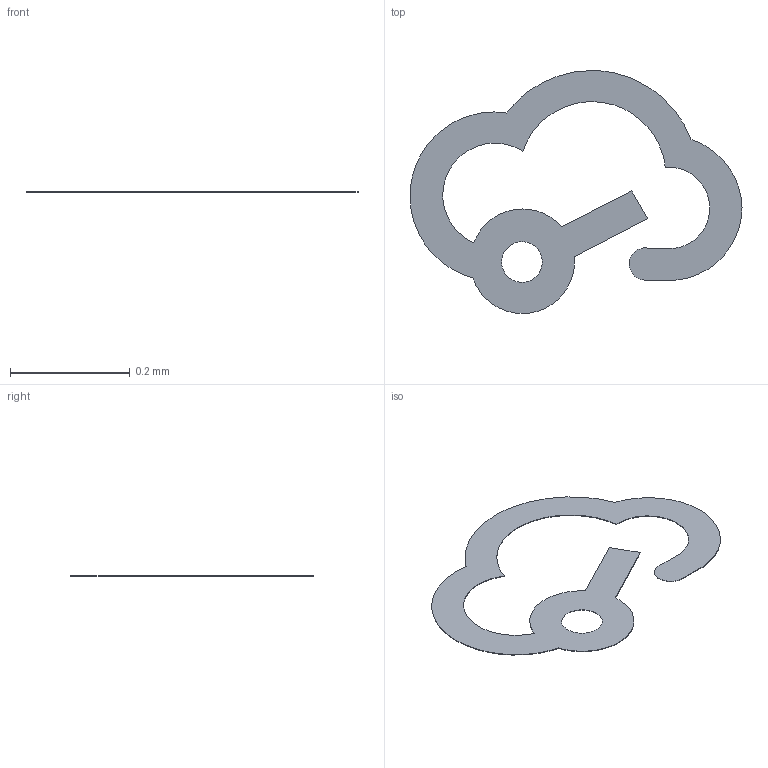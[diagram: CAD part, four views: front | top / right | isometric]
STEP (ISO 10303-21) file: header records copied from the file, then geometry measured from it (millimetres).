
FILE_DESCRIPTION(/* description */ ('STEP AP242 Edition 2','CAx-IF Rec.Pracs.---Representation and Presentation of Product Manufacturing Information (PMI)---4.0---2014-10-13','CAx-IF Rec.Pracs.---3D Tessellated Geometry---0.4---2014-09-14','2;1','CAx-IF Rec.Pracs.---User Defined Attributes---1.5---2016-08-15'),/* implementation_level */ '2;1');
FILE_NAME(/* name */ 'Assembly 1 - SW-SMD_L3.9-W3.0-P4.45~SW-SMD_L3.9-W2.9-H2.0-LS4.8~nxQB (6)',/* time_stamp */ '2026-04-02T09:55:26Z',/* author */ (''),/* organization */ (''),/* preprocessor_version */ 'ST-DEVELOPER v20',/* originating_system */ 'ONSHAPE BY PTC INC, 1.212',/* authorisation */ ' ');
FILE_SCHEMA (('AP242_MANAGED_MODEL_BASED_3D_ENGINEERING_MIM_LF { 1 0 10303 442 3 1 4 }'));
Length unit declared in the file: metre
Products named in the file (1): SW-SMD_L3.9-W3.0-P4.45~SW-SMD_L3.9-W2.9-H2.0-LS4.8~nxQB
Bounding box: 0.55 x 0.41 x 0 mm (x, y, z)
Volume: 0 mm3; surface area: 0.2 mm2
Topology: 1 solids, 1 shells, 37 faces, 105 edges, 70 vertices
Faces by surface type: bspline 28, plane 9
Entity records: 1653 total; most frequent: CARTESIAN_POINT 597, ORIENTED_EDGE 210, EDGE_CURVE 105, VERTEX_POINT 70, DIRECTION 69, B_SPLINE_CURVE_WITH_KNOTS 56, LINE 49, VECTOR 49
